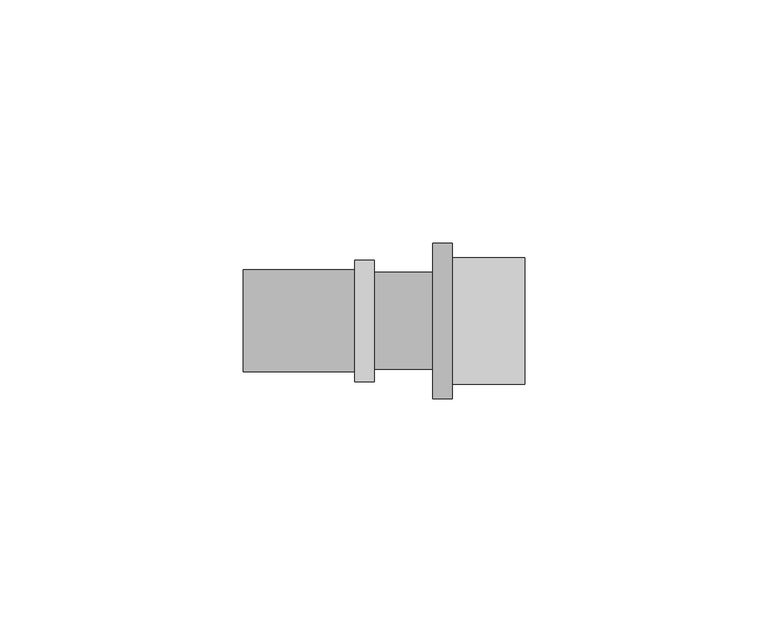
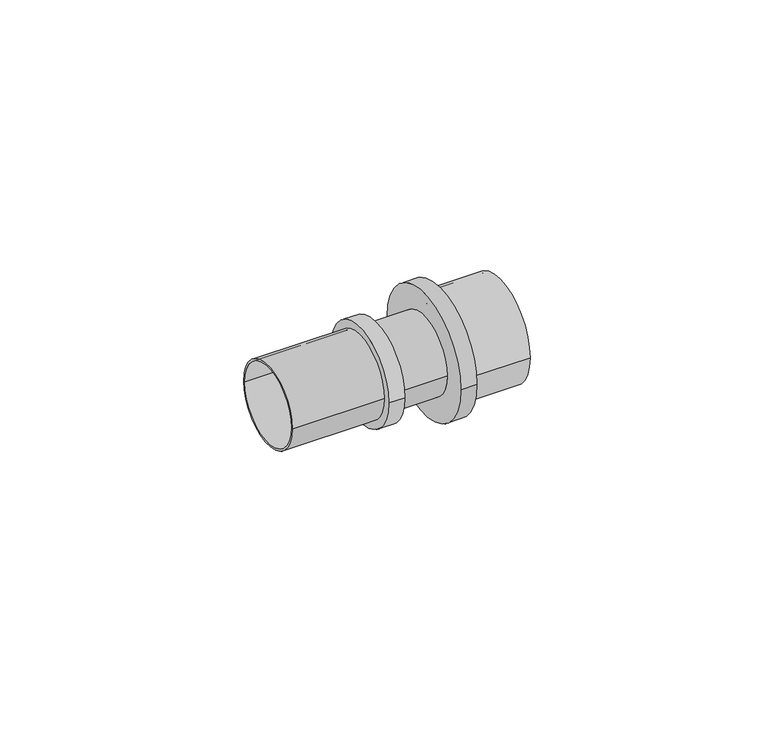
"""IFC4 building model written with IfcOpenShell, lengths in millimetres: pipe fitting geometry, БИР ПЕКС_НПР_Соединитель_Резьба_Наружная : Соединитель прямой с наружной резьбой."""

from ifc_helpers import new_model, si_unit, point, frame, origin, origin_2d, place, context, project, spatial, circle_curve, trimmed, segment, composite_curve, outline, extrude, source, transform, mapped, element, save


def pipe_fitting_767b2f23(model_context):
    return source(origin(), model_context, "Body", "SweptSolid", [
        extrude(outline(composite_curve([segment(trimmed(circle_curve(origin_2d(), 10.5), [point((-10.5, 0.0))], [point((10.5, 0.0))], False, "CARTESIAN"), True, "CONTINUOUS"), segment(trimmed(circle_curve(origin_2d(), 10.5), [point((10.5, 0.0))], [point((-10.5, 0.0))], False, "CARTESIAN"), True, "CONTINUOUS")], self_intersect=False), holes=[composite_curve([segment(trimmed(circle_curve(origin_2d(), 10.0), [point((-10.0, 0.0))], [point((10.0, 0.0))], True, "CARTESIAN"), True, "CONTINUOUS"), segment(trimmed(circle_curve(origin_2d(), 10.0), [point((10.0, 0.0))], [point((-10.0, 0.0))], True, "CARTESIAN"), True, "CONTINUOUS")], self_intersect=False)]), frame((-29.375, 0.0, 0.0), z_axis=(1.0, 0.0, 0.0), x_axis=(0.0, 1.0, 0.0)), (0.0, 0.0, 1.0), 23.0),
        extrude(outline(composite_curve([segment(trimmed(circle_curve(origin_2d(), 13.0), [point((-13.0, 0.0))], [point((13.0, 0.0))], False, "CARTESIAN"), True, "CONTINUOUS"), segment(trimmed(circle_curve(origin_2d(), 13.0), [point((13.0, 0.0))], [point((-13.0, 0.0))], False, "CARTESIAN"), True, "CONTINUOUS")], self_intersect=False), holes=[composite_curve([segment(trimmed(circle_curve(origin_2d(), 12.5), [point((-12.5, 0.0))], [point((12.5, 0.0))], True, "CARTESIAN"), True, "CONTINUOUS"), segment(trimmed(circle_curve(origin_2d(), 12.5), [point((12.5, 0.0))], [point((-12.5, 0.0))], True, "CARTESIAN"), True, "CONTINUOUS")], self_intersect=False)]), frame((13.625, 0.0, 0.0), z_axis=(1.0, 0.0, 0.0), x_axis=(0.0, 1.0, 0.0)), (0.0, 0.0, 1.0), 15.0),
        extrude(outline(composite_curve([segment(trimmed(circle_curve(origin_2d(), 10.0), [point((-10.0, 0.0))], [point((10.0, 0.0))], False, "CARTESIAN"), True, "CONTINUOUS"), segment(trimmed(circle_curve(origin_2d(), 10.0), [point((10.0, 0.0))], [point((-10.0, 0.0))], False, "CARTESIAN"), True, "CONTINUOUS")], self_intersect=False)), frame((-2.375, 0.0, 0.0), z_axis=(1.0, 0.0, 0.0), x_axis=(0.0, 1.0, 0.0)), (0.0, 0.0, 1.0), 12.0),
        extrude(outline(composite_curve([segment(trimmed(circle_curve(origin_2d(), 16.0), [point((-16.0, 0.0))], [point((16.0, 0.0))], False, "CARTESIAN"), True, "CONTINUOUS"), segment(trimmed(circle_curve(origin_2d(), 16.0), [point((16.0, 0.0))], [point((-16.0, 0.0))], False, "CARTESIAN"), True, "CONTINUOUS")], self_intersect=False), holes=[composite_curve([segment(trimmed(circle_curve(origin_2d(), 10.0), [point((-10.0, 0.0))], [point((10.0, 0.0))], True, "CARTESIAN"), True, "CONTINUOUS"), segment(trimmed(circle_curve(origin_2d(), 10.0), [point((10.0, 0.0))], [point((-10.0, 0.0))], True, "CARTESIAN"), True, "CONTINUOUS")], self_intersect=False)]), frame((9.625, 0.0, 0.0), z_axis=(1.0, 0.0, 0.0), x_axis=(0.0, 1.0, 0.0)), (0.0, 0.0, 1.0), 4.0),
        extrude(outline(composite_curve([segment(trimmed(circle_curve(origin_2d(), 12.5), [point((-12.5, 0.0))], [point((12.5, 0.0))], False, "CARTESIAN"), True, "CONTINUOUS"), segment(trimmed(circle_curve(origin_2d(), 12.5), [point((12.5, 0.0))], [point((-12.5, 0.0))], False, "CARTESIAN"), True, "CONTINUOUS")], self_intersect=False), holes=[composite_curve([segment(trimmed(circle_curve(origin_2d(), 10.0), [point((-10.0, 0.0))], [point((10.0, 0.0))], True, "CARTESIAN"), True, "CONTINUOUS"), segment(trimmed(circle_curve(origin_2d(), 10.0), [point((10.0, 0.0))], [point((-10.0, 0.0))], True, "CARTESIAN"), True, "CONTINUOUS")], self_intersect=False)]), frame((-6.375, 0.0, 0.0), z_axis=(1.0, 0.0, 0.0), x_axis=(0.0, 1.0, 0.0)), (0.0, 0.0, 1.0), 4.0),
    ])


if __name__ == "__main__":
    model = new_model("IFC4")
    model_context = context("Model", 3, world=origin())
    ifc_project = project(units=[si_unit("LENGTHUNIT", "METRE", prefix="MILLI")], contexts=[model_context])
    site = spatial("IfcSite", under=ifc_project)
    building = spatial("IfcBuilding", under=site)
    placement = place(None, origin())
    pipe_fitting_shape = pipe_fitting_767b2f23(model_context)
    element("IfcPipeFitting", 1, ObjectType="БИР ПЕКС_НПР_Соединитель_Резьба_Наружная : Соединитель прямой с наружной резьбой", at=placement, inside=building, context=model_context, shape_type="MappedRepresentation", body=[
        mapped(pipe_fitting_shape, transform((0.0, 0.0, 0.0), x_axis=(1.0, 0.0, 0.0), y_axis=(0.0, 1.0, 0.0), z_axis=(0.0, 0.0, 1.0))),
    ])
    save(model, "model.ifc")
